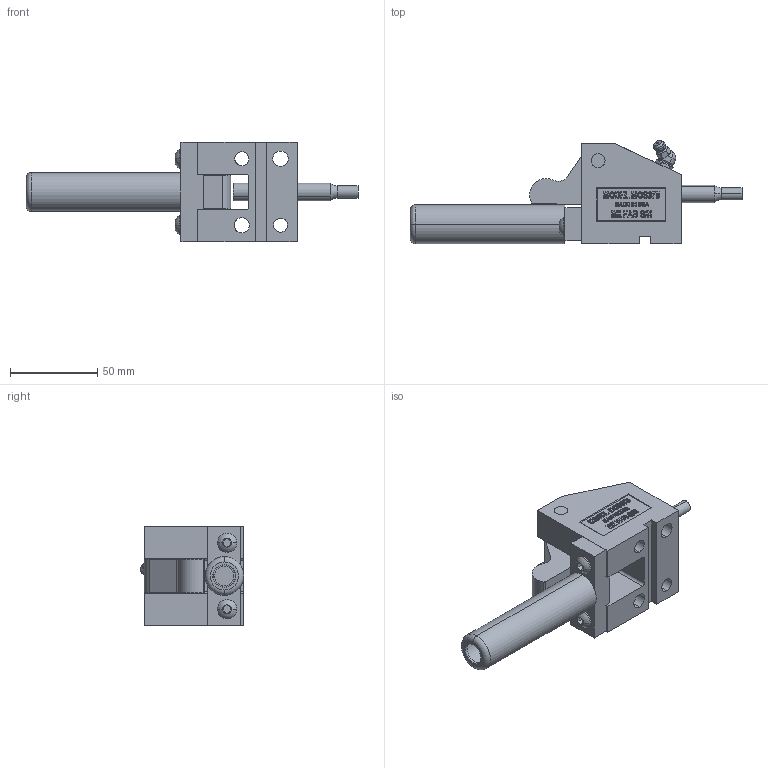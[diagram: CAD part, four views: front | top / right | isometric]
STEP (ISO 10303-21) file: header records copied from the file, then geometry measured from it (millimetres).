
FILE_DESCRIPTION (( 'STEP AP214' ), '1' );
FILE_NAME ('MOS37545-C.STEP', '2014-01-07T19:46:06', ( 'user' ), ( '' ), 'SwSTEP 2.0', 'SolidWorks 2009', '' );
FILE_SCHEMA (( 'AUTOMOTIVE_DESIGN' ));
Length unit declared in the file: inch
Products named in the file (1): MOS37545-C
Bounding box: 190.5 x 59.31 x 57.15 mm (x, y, z)
Surface area: 48038 mm2 (no closed solid volume)
Topology: 0 solids, 11 shells, 478 faces, 1466 edges, 989 vertices
Faces by surface type: plane 283, bspline 101, cylinder 59, torus 20, cone 11, sphere 4
Entity records: 28448 total; most frequent: CARTESIAN_POINT 10003, ORIENTED_EDGE 2619, DIRECTION 2096, EDGE_CURVE 1466, VERTEX_POINT 989, VECTOR 962, LINE 962, AXIS2_PLACEMENT_3D 567
